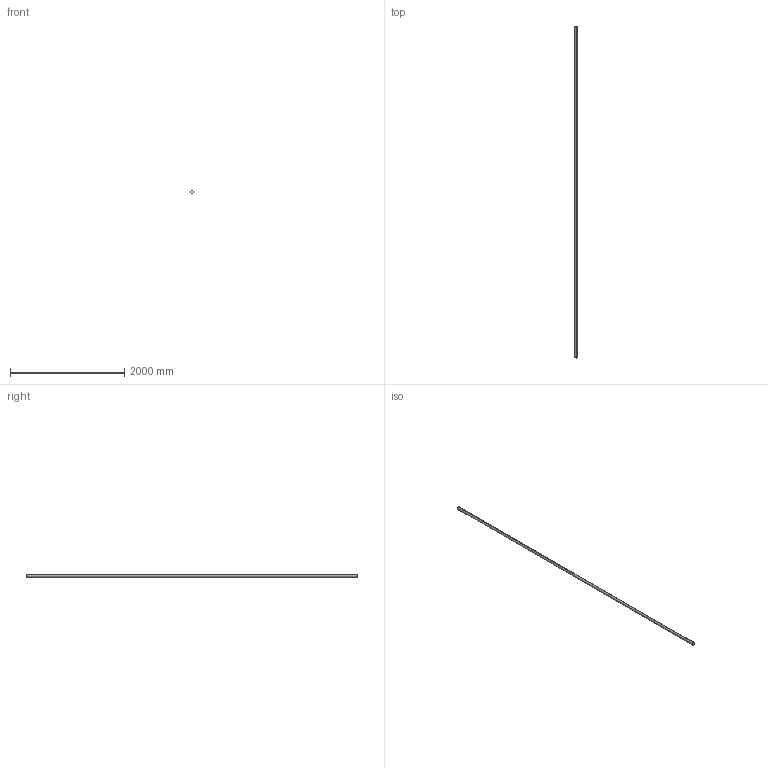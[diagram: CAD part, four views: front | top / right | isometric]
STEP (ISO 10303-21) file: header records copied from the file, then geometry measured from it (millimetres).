
FILE_DESCRIPTION(/* description */ (''),/* implementation_level */ '2;1');
FILE_NAME(/* name */ '2009 5000 00_step.stp',/* time_stamp */ '2025-06-20T15:06:48+08:00',/* author */ (''),/* organization */ (''),/* preprocessor_version */ 'ST-DEVELOPER v14',/* originating_system */ 'SIEMENS PLM Software NX 8.0',/* authorisation */ '');
FILE_SCHEMA (('CONFIG_CONTROL_DESIGN'));
Length unit declared in the file: millimetre
Products named in the file (1): 2009 5000 00_step
Bounding box: 50.1 x 5800 x 50.1 mm (x, y, z)
Volume: 1584154.4 mm3; surface area: 1760717.8 mm2
Topology: 1 solids, 1 shells, 6 faces, 12 edges, 8 vertices
Faces by surface type: cylinder 4, plane 2
Entity records: 252 total; most frequent: DIRECTION 34, CARTESIAN_POINT 27, ORIENTED_EDGE 24, AXIS2_PLACEMENT_3D 15, EDGE_CURVE 12, EDGE_LOOP 8, VERTEX_POINT 8, CIRCLE 8
